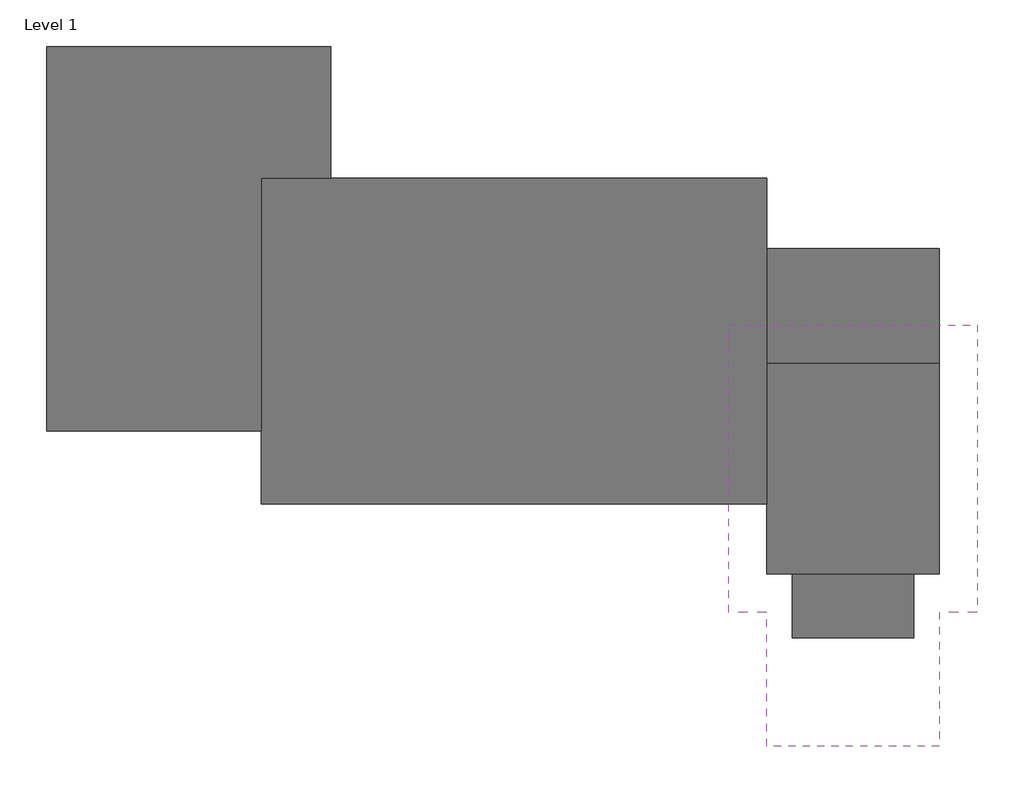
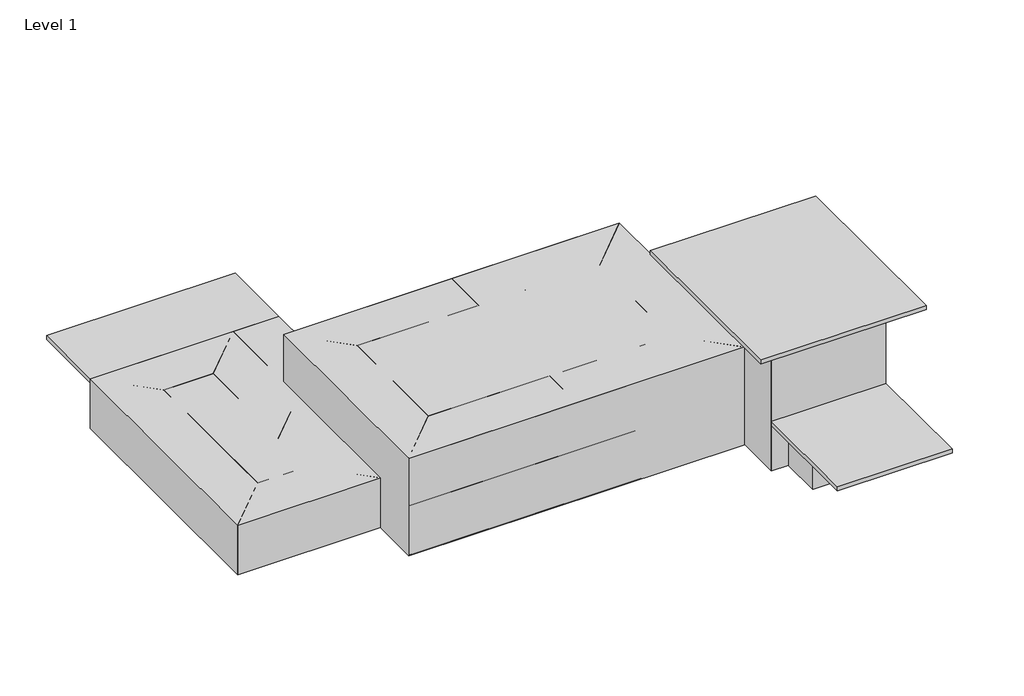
# One storey: 9 proxies.
"""IFC4 building model written with IfcOpenShell, lengths in millimetres."""

from ifc_helpers import new_model, si_unit, frame, origin, origin_with_axes, place, context, project, spatial, polyline, outline, extrude, faceted_brep, element, save

model = new_model("IFC4")

# Units and contexts
model_context = context("Model", 3, world=origin())
ifc_project = project(units=[si_unit("LENGTHUNIT", "METRE", prefix="MILLI")], contexts=[model_context])

# Site, building, storey
site = spatial("IfcSite", under=ifc_project)
building = spatial("IfcBuilding", under=site)
storey = spatial("IfcBuildingStorey", under=building, Name="Level 1", Elevation=0.0)

# Proxies
placement = place(None, origin())
element("IfcBuildingElementProxy", 1, Name="Mass", at=placement, inside=storey, context=model_context, shape_type="SweptSolid", body=[
    extrude(outline(polyline([(15900.4, -21945.6), (10109.2, -21945.6), (10109.2, -18897.6), (15900.4, -18897.6), (15900.4, -21945.6)])), origin_with_axes(), (0.0, 0.0, 1.0), 3454.4),
    extrude(outline(polyline([(17119.6, -3352.8), (17119.6, -8839.2), (8890.0, -8839.2), (8890.0, -3352.8), (17119.6, -3352.8)])), origin_with_axes(), (0.0, 0.0, 1.0), 3759.2),
])
element("IfcBuildingElementProxy", 2, Name="Mass", at=placement, inside=storey, context=model_context, shape_type="SweptSolid", body=[
    extrude(outline(polyline([(-11938.0, 6299.2), (-11938.0, 0.0), (-15240.0, 0.0), (-15240.0, 6299.2), (-11938.0, 6299.2)])), origin_with_axes(), (0.0, 0.0, 1.0), 3759.2),
    extrude(outline(polyline([(-15240.0, -12065.0), (-25501.6, -12065.0), (-22148.8, -8712.2), (-18592.8, -8712.2), (-15240.0, -12065.0)])), origin_with_axes(), (0.0, 0.0, 1.0), 3759.2),
    extrude(outline(polyline([(-25501.6, -12065.0), (-25501.6, 6299.2), (-22148.8, 2946.4), (-22148.8, -8712.2), (-25501.6, -12065.0)])), origin_with_axes(), (0.0, 0.0, 1.0), 3759.2),
    extrude(outline(polyline([(-18592.8, -5156.2), (-18592.8, -609.6), (-16319.5, -2882.9), (-18592.8, -5156.2)])), origin_with_axes(), (0.0, 0.0, 1.0), 3759.2),
    extrude(outline(polyline([(-18592.8, 2946.4), (-22148.8, 2946.4), (-25501.6, 6299.2), (-15240.0, 6299.2), (-18592.8, 2946.4)])), origin_with_axes(), (0.0, 0.0, 1.0), 3759.2),
    extrude(outline(polyline([(-15240.0, -12065.0), (-18592.8, -8712.2), (-18592.8, 2946.4), (-15240.0, 6299.2), (-15240.0, 0.0), (-15240.0, -12065.0)])), origin_with_axes(), (0.0, 0.0, 1.0), 3759.2),
    extrude(outline(polyline([(-18592.8, 2946.4), (-18592.8, -8712.2), (-22148.8, -8712.2), (-22148.8, 2946.4), (-18592.8, 2946.4)])), origin_with_axes(), (0.0, 0.0, 1.0), 3759.2),
    extrude(outline(polyline([(-18592.8, 2946.4), (-18592.8, -8712.2), (-22148.8, -8712.2), (-22148.8, 2946.4), (-18592.8, 2946.4)])), origin_with_axes(), (0.0, 0.0, 1.0), 3759.2),
    extrude(outline(polyline([(-11938.0, 6299.2), (-11938.0, 0.0), (-15240.0, 0.0), (-15240.0, -12065.0), (-25501.6, -12065.0), (-25501.6, 6299.2), (-11938.0, 6299.2)]), holes=[polyline([(-18592.8, -8712.2), (-18592.8, 2946.4), (-22148.8, 2946.4), (-22148.8, -8712.2), (-18592.8, -8712.2)])]), origin_with_axes(), (0.0, 0.0, 1.0), 3759.2),
])
element("IfcBuildingElementProxy", 3, Name="Mass", at=placement, inside=storey, context=model_context, shape_type="SolidModel", body=[
    extrude(outline(polyline([(8890.0, -15544.8), (-3175.0, -15544.8), (-3175.0, -12192.0), (5537.2, -12192.0), (8890.0, -15544.8)])), frame((0.0, 0.0, 3759.2), z_axis=(0.0, 0.0, 1.0), x_axis=(1.0, 0.0, 0.0)), (0.0, 0.0, 1.0), 3606.8),
    extrude(outline(polyline([(-3175.0, -15544.8), (-15240.0, -15544.8), (-11887.2, -12192.0), (-3175.0, -12192.0), (-3175.0, -15544.8)])), frame((0.0, 0.0, 3759.2), z_axis=(0.0, 0.0, 1.0), x_axis=(1.0, 0.0, 0.0)), (0.0, 0.0, 1.0), 3606.8),
    faceted_brep([(-15240.0, -15544.8, 3759.2), (-11887.2, -12192.0, 3759.2), (-11887.2, -12192.0, 7366.0), (-15240.0, -15544.8, 7366.0), (-11887.2, -3352.8, 3759.2), (-15240.0, 0.0, 3759.2), (-15240.0, 0.0, 7366.0), (-11887.2, -3352.8, 7366.0), (-15240.0, -12065.0, 3759.2)], [[[0, 1, 2, 3]], [[4, 5, 6, 7]], [[4, 1, 0, 8, 5]], [[3, 6, 5, 8, 0]], [[2, 7, 6, 3]], [[7, 2, 1, 4]]]),
    faceted_brep([(-15240.0, 0.0, 3759.2), (-11887.2, -3352.8, 3759.2), (-11887.2, -3352.8, 7366.0), (-15240.0, 0.0, 7366.0), (-3175.0, -3352.8, 3759.2), (-3175.0, 0.0, 3759.2), (-3175.0, 0.0, 7366.0), (-3175.0, -3352.8, 7366.0), (-11938.0, 0.0, 3759.2)], [[[0, 1, 2, 3]], [[4, 5, 6, 7]], [[4, 1, 0, 8, 5]], [[3, 6, 5, 8, 0]], [[2, 7, 6, 3]], [[7, 2, 1, 4]]]),
    extrude(outline(polyline([(5537.2, -3352.8), (-3175.0, -3352.8), (-3175.0, 0.0), (8890.0, 0.0), (5537.2, -3352.8)])), frame((0.0, 0.0, 3759.2), z_axis=(0.0, 0.0, 1.0), x_axis=(1.0, 0.0, 0.0)), (0.0, 0.0, 1.0), 3606.8),
    faceted_brep([(8890.0, 0.0, 3759.2), (5537.2, -3352.8, 3759.2), (5537.2, -3352.8, 7366.0), (8890.0, 0.0, 7366.0), (5537.2, -12192.0, 3759.2), (8890.0, -15544.8, 3759.2), (8890.0, -15544.8, 7366.0), (5537.2, -12192.0, 7366.0), (8890.0, -3352.8, 3759.2), (8890.0, -8839.2, 3759.2), (8890.0, -8839.2, 7366.0)], [[[0, 1, 2, 3]], [[4, 5, 6, 7]], [[4, 1, 0, 8, 9, 5]], [[2, 7, 6, 10, 3]], [[7, 2, 1, 4]], [[3, 10, 9, 8, 0]], [[10, 6, 5, 9]]]),
    faceted_brep([(-3175.0, -12192.0, 0.0), (5537.2, -12192.0, 0.0), (5537.2, -3352.8, 0.0), (-3175.0, -3352.8, 0.0), (-11887.2, -3352.8, 0.0), (-11887.2, -12192.0, 0.0), (8890.0, -15544.8, -50.8), (8890.0, -15544.8, 0.0), (-3175.0, -15544.8, 0.0), (-15240.0, -15544.8, 0.0), (-15240.0, -15544.8, -50.8), (-15240.0, -12065.0, 0.0), (-15240.0, 0.0, 0.0), (-15240.0, 0.0, -50.8), (8890.0, 0.0, -50.8), (8890.0, 0.0, 0.0), (8890.0, -3352.8, 0.0), (8890.0, -8839.2, 0.0), (-11938.0, 0.0, 0.0), (-3175.0, 0.0, 0.0)], [[[0, 1, 2, 3, 4, 5]], [[6, 7, 8, 9, 10]], [[10, 9, 11, 12, 13]], [[6, 10, 13, 14]], [[7, 6, 14, 15, 16, 17]], [[12, 18, 19, 15, 14, 13]], [[7, 1, 0, 8]], [[8, 0, 5, 9]], [[11, 9, 5, 4, 12]], [[18, 12, 4, 3, 19]], [[19, 3, 2, 15]], [[16, 15, 2, 1, 7, 17]]]),
    extrude(outline(polyline([(8890.0, -15544.8), (-3175.0, -15544.8), (-3175.0, -12192.0), (5537.2, -12192.0), (8890.0, -15544.8)])), origin_with_axes(), (0.0, 0.0, 1.0), 3759.2),
    extrude(outline(polyline([(-3175.0, -15544.8), (-15240.0, -15544.8), (-11887.2, -12192.0), (-3175.0, -12192.0), (-3175.0, -15544.8)])), origin_with_axes(), (0.0, 0.0, 1.0), 3759.2),
    extrude(outline(polyline([(-15240.0, -15544.8), (-15240.0, -12065.0), (-15240.0, 0.0), (-11887.2, -3352.8), (-11887.2, -12192.0), (-15240.0, -15544.8)])), origin_with_axes(), (0.0, 0.0, 1.0), 3759.2),
    extrude(outline(polyline([(-15240.0, 0.0), (-11938.0, 0.0), (-3175.0, 0.0), (-3175.0, -3352.8), (-11887.2, -3352.8), (-15240.0, 0.0)])), origin_with_axes(), (0.0, 0.0, 1.0), 3759.2),
    extrude(outline(polyline([(-3175.0, 0.0), (8890.0, 0.0), (5537.2, -3352.8), (-3175.0, -3352.8), (-3175.0, 0.0)])), origin_with_axes(), (0.0, 0.0, 1.0), 3759.2),
    extrude(outline(polyline([(8890.0, 0.0), (8890.0, -3352.8), (8890.0, -8839.2), (8890.0, -15544.8), (5537.2, -12192.0), (5537.2, -3352.8), (8890.0, 0.0)])), origin_with_axes(), (0.0, 0.0, 1.0), 3759.2),
    extrude(outline(polyline([(-11887.2, -12192.0), (-11887.2, -3352.8), (-3175.0, -3352.8), (5537.2, -3352.8), (5537.2, -12192.0), (-3175.0, -12192.0), (-11887.2, -12192.0)])), frame((0.0, 0.0, 3759.2), z_axis=(0.0, 0.0, 1.0), x_axis=(1.0, 0.0, 0.0)), (0.0, 0.0, 1.0), 3606.8),
    extrude(outline(polyline([(-11887.2, -12192.0), (-11887.2, -3352.8), (-3175.0, -3352.8), (5537.2, -3352.8), (5537.2, -12192.0), (-3175.0, -12192.0), (-11887.2, -12192.0)])), origin_with_axes(), (0.0, 0.0, 1.0), 3759.2),
    extrude(outline(polyline([(5537.2, -3352.8), (5537.2, -12192.0), (-11887.2, -12192.0), (-11887.2, -3352.8), (5537.2, -3352.8)])), origin_with_axes(), (0.0, 0.0, 1.0), 7366.0),
    faceted_brep([(8890.0, -15544.8, 7366.0), (-15240.0, -15544.8, 7366.0), (-15240.0, -15544.8, -50.8), (8890.0, -15544.8, -50.8), (8890.0, -15544.8, 0.0), (-15240.0, 0.0, 7366.0), (-15240.0, 0.0, 3759.2), (-15240.0, -12065.0, 3759.2), (-15240.0, -12065.0, 0.0), (-15240.0, 0.0, 0.0), (-15240.0, 0.0, -50.8), (8890.0, 0.0, 7366.0), (8890.0, 0.0, -50.8), (-11938.0, 0.0, 0.0), (-11938.0, 0.0, 3759.2), (8890.0, -8839.2, 7366.0), (8890.0, -8839.2, 3759.2), (8890.0, -3352.8, 3759.2), (8890.0, -3352.8, 0.0), (8890.0, -8839.2, 0.0), (5537.2, -3352.8, 7366.0), (5537.2, -12192.0, 7366.0), (-11887.2, -12192.0, 7366.0), (-11887.2, -3352.8, 7366.0), (5537.2, -3352.8, 0.0), (5537.2, -12192.0, 0.0), (-11887.2, -3352.8, 0.0), (-11887.2, -12192.0, 0.0)], [[[0, 1, 2, 3, 4]], [[2, 1, 5, 6, 7, 8, 9, 10]], [[6, 5, 11, 12, 10, 9, 13, 14]], [[4, 3, 12, 11, 15, 16, 17, 18, 19]], [[3, 2, 10, 12]], [[1, 0, 15, 11, 5], [20, 21, 22, 23]], [[17, 16, 19, 18]], [[7, 6, 9, 8]], [[13, 9, 6, 14]], [[0, 4, 19, 16, 15]], [[24, 25, 21, 20]], [[24, 20, 23, 26]], [[26, 23, 22, 27]], [[21, 25, 27, 22]], [[25, 24, 26, 27]]]),
])
element("IfcBuildingElementProxy", 4, Name="Mass", at=placement, inside=storey, context=model_context, shape_type="SolidModel", body=[
    faceted_brep([(12090.4, -13868.4, 0.0), (12090.4, -13868.4, 9855.2), (12242.8, -13716.0, 9855.2), (12242.8, -13716.0, 0.0), (12242.8, -14020.8, 0.0), (12242.8, -14020.8, 9855.2)], [[[0, 1, 2, 3]], [[0, 4, 5, 1]], [[3, 4, 0]], [[1, 5, 2]], [[2, 5, 4, 3]]]),
    faceted_brep([(17119.6, -18897.6, 0.0), (17119.6, -8839.2, 0.0), (17119.6, -8839.2, 3759.2), (17119.6, -8839.2, 9855.2), (17119.6, -18897.6, 9855.2), (13766.8, -12192.0, 0.0), (13766.8, -15544.8, 0.0), (13766.8, -15544.8, 9855.2), (13766.8, -12192.0, 9855.2)], [[[0, 1, 2, 3, 4]], [[5, 6, 7, 8]], [[1, 5, 8, 3, 2]], [[6, 0, 4, 7]], [[1, 0, 6, 5]], [[8, 7, 4, 3]]]),
    faceted_brep([(17119.6, -18897.6, 0.0), (13766.8, -15544.8, 0.0), (13766.8, -15544.8, 9855.2), (17119.6, -18897.6, 9855.2), (12242.8, -15544.8, 0.0), (8890.0, -18897.6, 0.0), (8890.0, -18897.6, 9855.2), (12242.8, -15544.8, 9855.2), (15900.4, -18897.6, 0.0), (10109.2, -18897.6, 0.0), (10109.2, -18897.6, 3454.4), (15900.4, -18897.6, 3454.4)], [[[0, 1, 2, 3]], [[4, 5, 6, 7]], [[4, 1, 0, 8, 9, 5]], [[3, 6, 5, 9, 10, 11, 8, 0]], [[2, 7, 6, 3]], [[7, 2, 1, 4]], [[10, 9, 8, 11]]]),
    faceted_brep([(8890.0, -18897.6, 0.0), (12242.8, -15544.8, 0.0), (12242.8, -15544.8, 9855.2), (8890.0, -18897.6, 9855.2), (12242.8, -12192.0, 0.0), (8890.0, -8839.2, 0.0), (8890.0, -8839.2, 3759.2), (8890.0, -8839.2, 7366.0), (8890.0, -8839.2, 9855.2), (12242.8, -12192.0, 9855.2), (8890.0, -15544.8, 0.0), (8890.0, -15544.8, 7366.0), (8890.0, -15544.8, 3759.2)], [[[0, 1, 2, 3]], [[4, 5, 6, 7, 8, 9]], [[4, 1, 0, 10, 5]], [[11, 7, 6, 12]], [[0, 3, 8, 7, 11, 12, 10]], [[2, 9, 8, 3]], [[9, 2, 1, 4]], [[5, 10, 12, 6]]]),
    faceted_brep([(13766.8, -13716.0, 0.0), (13766.8, -14020.8, 0.0), (13766.8, -14020.8, 9855.2), (13766.8, -13716.0, 9855.2), (13919.2, -13868.4, 0.0), (13919.2, -13868.4, 9855.2)], [[[0, 1, 2, 3]], [[4, 5, 2, 1]], [[4, 0, 3, 5]], [[1, 0, 4]], [[3, 2, 5]]]),
    faceted_brep([(8890.0, -8839.2, 0.0), (12242.8, -12192.0, 0.0), (12242.8, -12192.0, 9855.2), (8890.0, -8839.2, 9855.2), (8890.0, -8839.2, 7366.0), (8890.0, -8839.2, 3759.2), (13766.8, -12192.0, 0.0), (17119.6, -8839.2, 0.0), (17119.6, -8839.2, 3759.2), (17119.6, -8839.2, 9855.2), (13766.8, -12192.0, 9855.2)], [[[0, 1, 2, 3, 4, 5]], [[6, 7, 8, 9, 10]], [[6, 1, 0, 7]], [[5, 8, 7, 0]], [[3, 9, 8, 5, 4]], [[2, 10, 9, 3]], [[1, 6, 10, 2]]]),
    extrude(outline(polyline([(12242.8, -12192.0), (13766.8, -12192.0), (13766.8, -15544.8), (12242.8, -15544.8), (12242.8, -12192.0)])), origin_with_axes(), (0.0, 0.0, 1.0), 9855.2),
    extrude(outline(polyline([(12242.8, -12192.0), (13766.8, -12192.0), (13766.8, -15544.8), (12242.8, -15544.8), (12242.8, -12192.0)])), origin_with_axes(), (0.0, 0.0, 1.0), 9855.2),
    faceted_brep([(17119.6, -18897.6, 9855.2), (8890.0, -18897.6, 9855.2), (8890.0, -18897.6, 0.0), (10109.2, -18897.6, 0.0), (10109.2, -18897.6, 3454.4), (15900.4, -18897.6, 3454.4), (15900.4, -18897.6, 0.0), (17119.6, -18897.6, 0.0), (8890.0, -8839.2, 9855.2), (8890.0, -8839.2, 7366.0), (8890.0, -15544.8, 7366.0), (8890.0, -15544.8, 0.0), (17119.6, -8839.2, 9855.2), (17119.6, -8839.2, 3759.2), (8890.0, -8839.2, 3759.2), (17119.6, -8839.2, 0.0), (8890.0, -8839.2, 0.0), (13766.8, -12192.0, 0.0), (12242.8, -12192.0, 0.0), (12242.8, -15544.8, 0.0), (13766.8, -15544.8, 0.0), (12242.8, -12192.0, 9855.2), (13766.8, -12192.0, 9855.2), (13766.8, -15544.8, 9855.2), (12242.8, -15544.8, 9855.2)], [[[0, 1, 2, 3, 4, 5, 6, 7]], [[2, 1, 8, 9, 10, 11]], [[9, 8, 12, 13, 14]], [[0, 7, 15, 13, 12]], [[3, 2, 11, 16, 15, 7, 6], [17, 18, 19, 20]], [[1, 0, 12, 8], [21, 22, 23, 24]], [[4, 3, 6, 5]], [[14, 13, 15, 16]], [[10, 9, 14, 16, 11]], [[21, 18, 17, 22]], [[18, 21, 24, 19]], [[19, 24, 23, 20]], [[22, 17, 20, 23]]]),
])
element("IfcBuildingElementProxy", 5, Name="Mass 1 : Mass 1", ObjectType="Mass 1 : Mass 1", at=placement, inside=storey, context=model_context, shape_type="SweptSolid", body=[
    extrude(outline(polyline([(17119.6, -3352.8), (17119.6, -8839.2), (8890.0, -8839.2), (8890.0, -3352.8), (17119.6, -3352.8)])), origin_with_axes(), (0.0, 0.0, 1.0), 3759.2),
    extrude(outline(polyline([(15900.4, -21945.6), (10109.2, -21945.6), (10109.2, -18897.6), (15900.4, -18897.6), (15900.4, -21945.6)])), origin_with_axes(), (0.0, 0.0, 1.0), 3454.4),
])
element("IfcBuildingElementProxy", 6, Name="Mass 2 : Mass 2", ObjectType="Mass 2 : Mass 2", at=placement, inside=storey, context=model_context, shape_type="SweptSolid", body=[
    extrude(outline(polyline([(-15240.0, -12065.0), (-25501.6, -12065.0), (-25501.6, 6299.2), (-11938.0, 6299.2), (-11938.0, 0.0), (-15240.0, 0.0), (-15240.0, -12065.0)])), origin_with_axes(), (0.0, 0.0, 1.0), 3759.2),
])
element("IfcBuildingElementProxy", 7, Name="Mass 3 : Mass 3", ObjectType="Mass 3 : Mass 3", at=placement, inside=storey, context=model_context, shape_type="SweptSolid", body=[
    extrude(outline(polyline([(-11938.0, 11734.8), (-11938.0, 6299.2), (-25501.6, 6299.2), (-25501.6, 11734.8), (-11938.0, 11734.8)])), frame((0.0, 0.0, 3454.4), z_axis=(0.0, 0.0, 1.0), x_axis=(1.0, 0.0, 0.0)), (0.0, 0.0, 1.0), 304.8),
    extrude(outline(polyline([(18948.4, -20726.4), (7061.2, -20726.4), (7061.2, -7010.4), (18948.4, -7010.4), (18948.4, -20726.4)])), frame((0.0, 0.0, 9855.2), z_axis=(0.0, 0.0, 1.0), x_axis=(1.0, 0.0, 0.0)), (0.0, 0.0, 1.0), 304.8),
    extrude(outline(polyline([(17119.6, -27127.2), (8890.0, -27127.2), (8890.0, -18897.6), (17119.6, -18897.6), (17119.6, -27127.2)])), frame((0.0, 0.0, 3454.4), z_axis=(0.0, 0.0, 1.0), x_axis=(1.0, 0.0, 0.0)), (0.0, 0.0, 1.0), 304.8),
    extrude(outline(polyline([(8890.0, 0.0), (17119.6, 0.0), (17119.6, -3352.8), (8890.0, -3352.8), (8890.0, 0.0)])), frame((0.0, 0.0, 3454.4), z_axis=(0.0, 0.0, 1.0), x_axis=(1.0, 0.0, 0.0)), (0.0, 0.0, 1.0), 304.8),
])
element("IfcBuildingElementProxy", 8, Name="Mass 4 : Mass 4", ObjectType="Mass 4 : Mass 4", at=placement, inside=storey, context=model_context, shape_type="Brep", body=[
    faceted_brep([(8890.0, -15544.8, 7366.0), (-15240.0, -15544.8, 7366.0), (-15240.0, -15544.8, -50.8), (8890.0, -15544.8, -50.8), (8890.0, -15544.8, 0.0), (-15240.0, 0.0, 7366.0), (-15240.0, 0.0, 3759.2), (-15240.0, -12065.0, 3759.2), (-15240.0, -12065.0, 0.0), (-15240.0, 0.0, 0.0), (-15240.0, 0.0, -50.8), (8890.0, 0.0, 7366.0), (8890.0, 0.0, -50.8), (-11938.0, 0.0, 0.0), (-11938.0, 0.0, 3759.2), (8890.0, -8839.2, 7366.0), (8890.0, -8839.2, 3759.2), (8890.0, -3352.8, 3759.2), (8890.0, -3352.8, 0.0), (8890.0, -8839.2, 0.0)], [[[0, 1, 2, 3, 4]], [[2, 1, 5, 6, 7, 8, 9, 10]], [[5, 11, 12, 10, 9, 13, 14, 6]], [[12, 11, 15, 16, 17, 18, 19, 4, 3]], [[3, 2, 10, 12]], [[1, 0, 15, 11, 5]], [[18, 17, 16, 19]], [[6, 9, 8, 7]], [[9, 6, 14, 13]], [[19, 16, 15, 0, 4]]]),
])
element("IfcBuildingElementProxy", 9, Name="Mass 5 : Mass 5", ObjectType="Mass 5 : Mass 5", at=placement, inside=storey, context=model_context, shape_type="Brep", body=[
    faceted_brep([(17119.6, -18897.6, 9855.2), (8890.0, -18897.6, 9855.2), (8890.0, -18897.6, 0.0), (10109.2, -18897.6, 0.0), (10109.2, -18897.6, 3454.4), (15900.4, -18897.6, 3454.4), (15900.4, -18897.6, 0.0), (17119.6, -18897.6, 0.0), (8890.0, -8839.2, 9855.2), (8890.0, -8839.2, 7366.0), (8890.0, -15544.8, 7366.0), (8890.0, -15544.8, 0.0), (17119.6, -8839.2, 9855.2), (17119.6, -8839.2, 3759.2), (8890.0, -8839.2, 3759.2), (17119.6, -8839.2, 0.0), (8890.0, -8839.2, 0.0)], [[[0, 1, 2, 3, 4, 5, 6, 7]], [[2, 1, 8, 9, 10, 11]], [[8, 12, 13, 14, 9]], [[12, 0, 7, 15, 13]], [[15, 7, 6, 3, 2, 11, 16]], [[0, 12, 8, 1]], [[3, 6, 5, 4]], [[16, 14, 13, 15]], [[14, 16, 11, 10, 9]]]),
])

save(model, "model.ifc")
